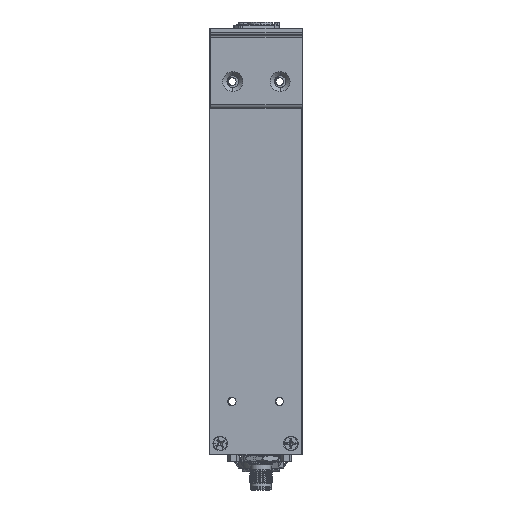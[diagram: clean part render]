
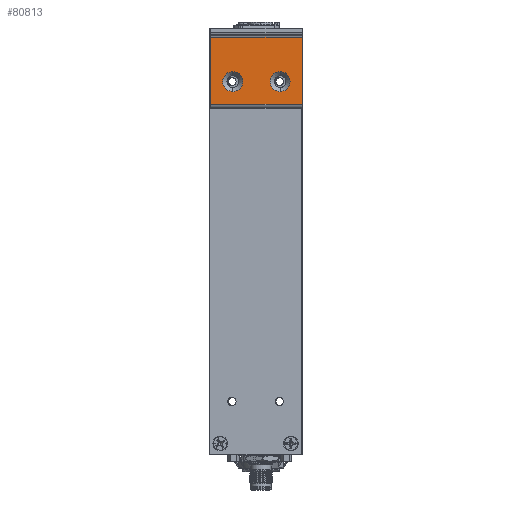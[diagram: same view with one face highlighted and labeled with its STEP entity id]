
A CAD part, left-side view. The second image highlights one B-rep face of the part: STEP entity #80813.
In plain terms, the highlighted planar face has unit normal (-1, 0, 0).
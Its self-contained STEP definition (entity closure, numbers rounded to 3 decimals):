
#75 = FACE_BOUND ( 'NONE', #53022, .T. ) ;
#1438 = CARTESIAN_POINT ( 'NONE',  ( -214., 22.168, 649.71 ) ) ;
#3522 = EDGE_CURVE ( 'NONE', #106289, #60464, #104463, .T. ) ;
#8447 = CARTESIAN_POINT ( 'NONE',  ( -214., 22.168, 681.635 ) ) ;
#9297 = DIRECTION ( 'NONE',  ( 1., 0., 0. ) ) ;
#9872 = EDGE_CURVE ( 'NONE', #99141, #35974, #87663, .T. ) ;
#10839 = VECTOR ( 'NONE', #35874, 1000. ) ;
#13010 = DIRECTION ( 'NONE',  ( 1., 0., 0. ) ) ;
#13464 = DIRECTION ( 'NONE',  ( 1., 0., 0. ) ) ;
#15359 = AXIS2_PLACEMENT_3D ( 'NONE', #26155, #13464, #99820 ) ;
#16834 = ORIENTED_EDGE ( 'NONE', *, *, #40647, .T. ) ;
#19025 = VECTOR ( 'NONE', #54233, 1000. ) ;
#21491 = EDGE_CURVE ( 'NONE', #96967, #36212, #50244, .T. ) ;
#23690 = CARTESIAN_POINT ( 'NONE',  ( -214., -21.52, 673.785 ) ) ;
#24804 = LINE ( 'NONE', #77343, #19025 ) ;
#26155 = CARTESIAN_POINT ( 'NONE',  ( -214., -10.954, 660.41 ) ) ;
#29978 = AXIS2_PLACEMENT_3D ( 'NONE', #61748, #9297, #72665 ) ;
#31452 = DIRECTION ( 'NONE',  ( -1., 0., 0. ) ) ;
#32112 = DIRECTION ( 'NONE',  ( 0., 1., 0. ) ) ;
#32626 = AXIS2_PLACEMENT_3D ( 'NONE', #33473, #13010, #116714 ) ;
#33473 = CARTESIAN_POINT ( 'NONE',  ( -214., 11.601, 660.41 ) ) ;
#35874 = DIRECTION ( 'NONE',  ( 0., 1., 0. ) ) ;
#35974 = VERTEX_POINT ( 'NONE', #89428 ) ;
#36212 = VERTEX_POINT ( 'NONE', #132957 ) ;
#40647 = EDGE_CURVE ( 'NONE', #36212, #96967, #64804, .T. ) ;
#44119 = CIRCLE ( 'NONE', #46449, 4.75 ) ;
#46449 = AXIS2_PLACEMENT_3D ( 'NONE', #78462, #75790, #88008 ) ;
#47351 = EDGE_LOOP ( 'NONE', ( #57213, #16834 ) ) ;
#50244 = CIRCLE ( 'NONE', #15359, 4.75 ) ;
#51918 = FACE_BOUND ( 'NONE', #47351, .T. ) ;
#53022 = EDGE_LOOP ( 'NONE', ( #124251, #95140 ) ) ;
#53564 = EDGE_LOOP ( 'NONE', ( #54460, #121810, #68618, #80867 ) ) ;
#54233 = DIRECTION ( 'NONE',  ( 0., 0., -1. ) ) ;
#54460 = ORIENTED_EDGE ( 'NONE', *, *, #70565, .T. ) ;
#57213 = ORIENTED_EDGE ( 'NONE', *, *, #21491, .T. ) ;
#58890 = VECTOR ( 'NONE', #102515, 1000. ) ;
#60464 = VERTEX_POINT ( 'NONE', #94510 ) ;
#61748 = CARTESIAN_POINT ( 'NONE',  ( -214., -10.954, 660.41 ) ) ;
#64804 = CIRCLE ( 'NONE', #29978, 4.75 ) ;
#66687 = DIRECTION ( 'NONE',  ( 0., 0., -1. ) ) ;
#67845 = CARTESIAN_POINT ( 'NONE',  ( -214., -10.954, 655.66 ) ) ;
#68618 = ORIENTED_EDGE ( 'NONE', *, *, #85696, .F. ) ;
#70565 = EDGE_CURVE ( 'NONE', #114752, #35974, #24804, .T. ) ;
#72665 = DIRECTION ( 'NONE',  ( 0., 0., -1. ) ) ;
#72728 = VECTOR ( 'NONE', #66687, 1000. ) ;
#73052 = FACE_OUTER_BOUND ( 'NONE', #53564, .T. ) ;
#75790 = DIRECTION ( 'NONE',  ( 1., 0., 0. ) ) ;
#77343 = CARTESIAN_POINT ( 'NONE',  ( -214., 22.168, 673.785 ) ) ;
#78462 = CARTESIAN_POINT ( 'NONE',  ( -214., 11.601, 660.41 ) ) ;
#80813 = ADVANCED_FACE ( 'NONE', ( #51918, #75, #73052 ), #107091, .T. ) ;
#80867 = ORIENTED_EDGE ( 'NONE', *, *, #100786, .T. ) ;
#82025 = LINE ( 'NONE', #124291, #58890 ) ;
#83565 = CARTESIAN_POINT ( 'NONE',  ( -214., 11.601, 655.66 ) ) ;
#85696 = EDGE_CURVE ( 'NONE', #129016, #99141, #117227, .T. ) ;
#87663 = LINE ( 'NONE', #98549, #10839 ) ;
#88008 = DIRECTION ( 'NONE',  ( 0., 0., -1. ) ) ;
#89428 = CARTESIAN_POINT ( 'NONE',  ( -214., 22.168, 649.71 ) ) ;
#93088 = AXIS2_PLACEMENT_3D ( 'NONE', #1438, #31452, #32112 ) ;
#94510 = CARTESIAN_POINT ( 'NONE',  ( -214., 11.601, 665.16 ) ) ;
#95140 = ORIENTED_EDGE ( 'NONE', *, *, #104741, .T. ) ;
#96967 = VERTEX_POINT ( 'NONE', #67845 ) ;
#98549 = CARTESIAN_POINT ( 'NONE',  ( -214., 22.168, 649.71 ) ) ;
#99141 = VERTEX_POINT ( 'NONE', #109158 ) ;
#99820 = DIRECTION ( 'NONE',  ( 0., 0., -1. ) ) ;
#100786 = EDGE_CURVE ( 'NONE', #129016, #114752, #82025, .T. ) ;
#102515 = DIRECTION ( 'NONE',  ( 0., 1., 0. ) ) ;
#104463 = CIRCLE ( 'NONE', #32626, 4.75 ) ;
#104741 = EDGE_CURVE ( 'NONE', #60464, #106289, #44119, .T. ) ;
#106289 = VERTEX_POINT ( 'NONE', #83565 ) ;
#107091 = PLANE ( 'NONE',  #93088 ) ;
#109158 = CARTESIAN_POINT ( 'NONE',  ( -214., -21.52, 649.71 ) ) ;
#114752 = VERTEX_POINT ( 'NONE', #8447 ) ;
#116714 = DIRECTION ( 'NONE',  ( 0., 0., -1. ) ) ;
#117227 = LINE ( 'NONE', #23690, #72728 ) ;
#121810 = ORIENTED_EDGE ( 'NONE', *, *, #9872, .F. ) ;
#124251 = ORIENTED_EDGE ( 'NONE', *, *, #3522, .T. ) ;
#124291 = CARTESIAN_POINT ( 'NONE',  ( -214., 22.168, 681.635 ) ) ;
#129016 = VERTEX_POINT ( 'NONE', #131676 ) ;
#131676 = CARTESIAN_POINT ( 'NONE',  ( -214., -21.52, 681.635 ) ) ;
#132957 = CARTESIAN_POINT ( 'NONE',  ( -214., -10.954, 665.16 ) ) ;
